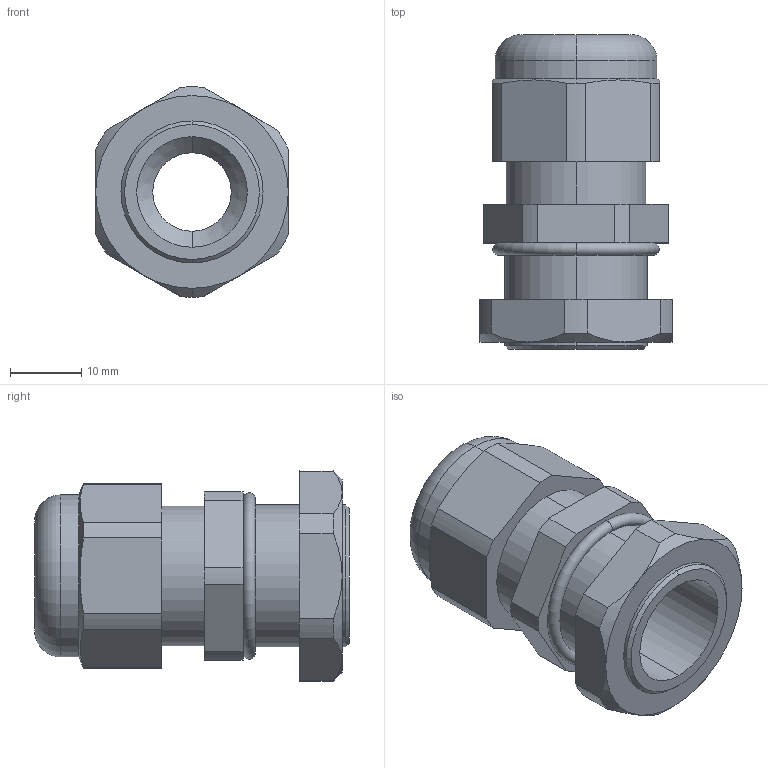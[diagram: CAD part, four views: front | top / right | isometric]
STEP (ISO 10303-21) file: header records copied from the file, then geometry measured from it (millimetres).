
FILE_DESCRIPTION (( 'STEP AP203' ), '1' );
FILE_NAME ('CH-M20L.STEP', '2018-02-07T14:46:01', ( '' ), ( '' ), 'SwSTEP 2.0', 'SolidWorks 2012', '' );
FILE_SCHEMA (( 'CONFIG_CONTROL_DESIGN' ));
Length unit declared in the file: millimetre
Products named in the file (1): CH-M20L
Bounding box: 27 x 44.1 x 29.49 mm (x, y, z)
Volume: 11961.5 mm3; surface area: 6827.2 mm2
Topology: 1 solids, 1 shells, 78 faces, 189 edges, 118 vertices
Faces by surface type: cylinder 34, plane 25, cone 15, torus 4
Entity records: 2470 total; most frequent: CARTESIAN_POINT 524, DIRECTION 415, ORIENTED_EDGE 378, EDGE_CURVE 189, AXIS2_PLACEMENT_3D 165, VERTEX_POINT 118, CIRCLE 86, EDGE_LOOP 85
